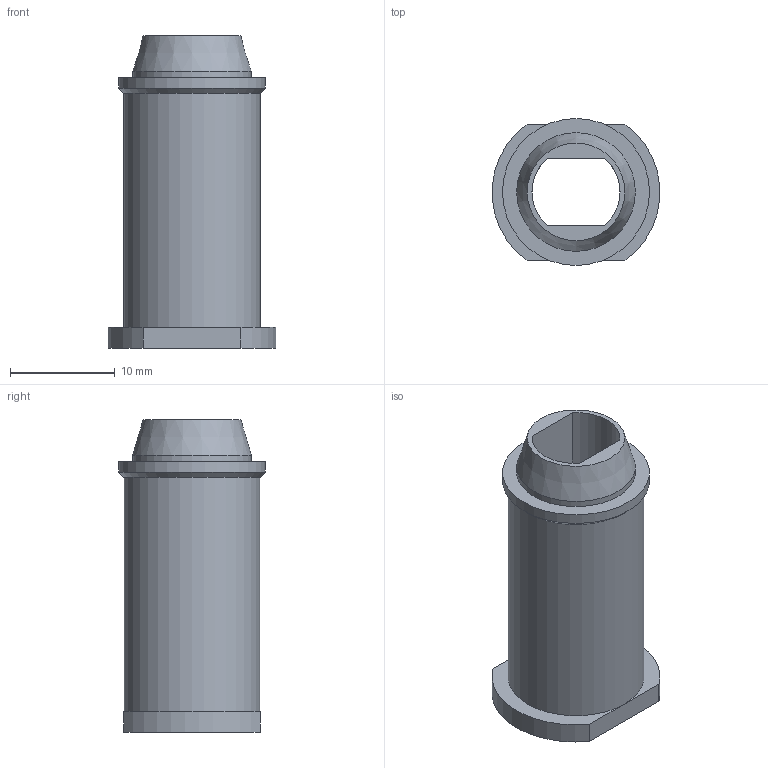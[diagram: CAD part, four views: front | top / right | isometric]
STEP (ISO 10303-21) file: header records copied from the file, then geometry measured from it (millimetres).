
FILE_DESCRIPTION(/* description */ (''),/* implementation_level */ '2;1');
FILE_NAME(/* name */ '4-50-2 Shock tube.step',/* time_stamp */ '2025-05-10T22:21:22+02:00',/* author */ (''),/* organization */ (''),/* preprocessor_version */ 'ST-DEVELOPER v20.1',/* originating_system */ 'Autodesk Translation Framework v14.4.0.0',/* authorisation */ '');
FILE_SCHEMA (('AUTOMOTIVE_DESIGN { 1 0 10303 214 3 1 1 }'));
Length unit declared in the file: millimetre
Products named in the file (1): 4-50-2 Shock tube
Bounding box: 15.94 x 14 x 29.8 mm (x, y, z)
Volume: 1570.2 mm3; surface area: 2406.9 mm2
Topology: 1 solids, 1 shells, 20 faces, 46 edges, 30 vertices
Faces by surface type: plane 10, cylinder 8, cone 2
Full cylindrical faces by diameter (mm): 11 x1, 11.3 x1, 13 x1, 14 x1
Entity records: 619 total; most frequent: DIRECTION 109, CARTESIAN_POINT 97, ORIENTED_EDGE 92, EDGE_CURVE 46, AXIS2_PLACEMENT_3D 42, VERTEX_POINT 30, LINE 25, VECTOR 25
